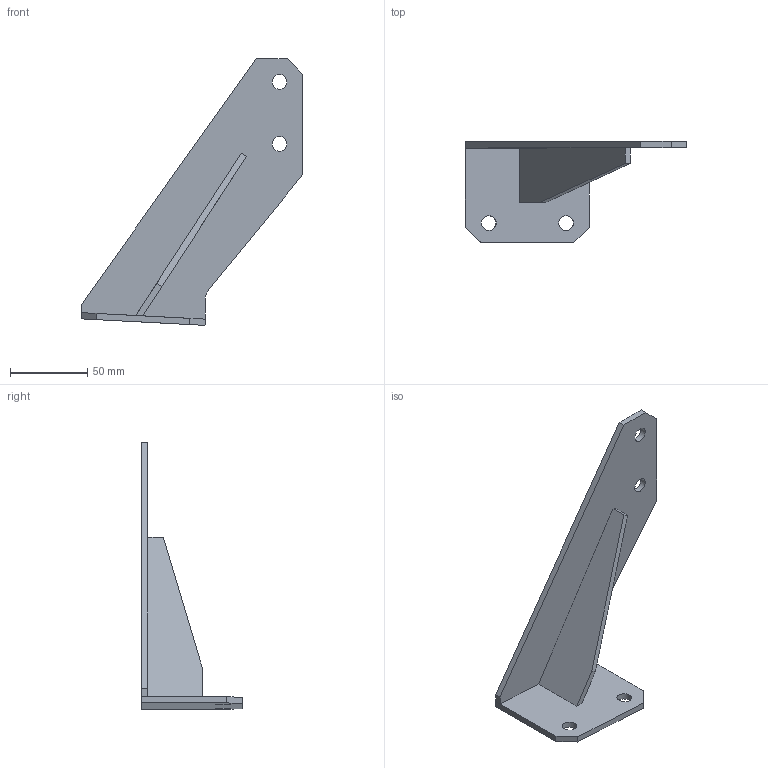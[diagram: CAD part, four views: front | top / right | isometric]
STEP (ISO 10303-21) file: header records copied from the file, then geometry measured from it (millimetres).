
FILE_DESCRIPTION(/* description */ ('SUPPORT AVANT DROIT','CAx-IF Rec.Pracs.---Representation and Presentation of Product Manufacturing Information (PMI)---4.0---2014-10-13'),/* implementation_level */ '2;1');
FILE_NAME(/* name */ 'vv110301-B.stp',/* time_stamp */ '2025-09-26T17:23:27+02:00',/* author */ ('CORDOLIANI J.'),/* organization */ (''),/* preprocessor_version */ 'ST-DEVELOPER v20',/* originating_system */ 'Autodesk Inventor 2025',/* authorisation */ '');
FILE_SCHEMA (('AP242_MANAGED_MODEL_BASED_3D_ENGINEERING_MIM_LF { 1 0 10303 442 1 1 4 }'));
Length unit declared in the file: millimetre
Products named in the file (1): VICTOR.V.11.03.01
Bounding box: 143.01 x 65 x 172.18 mm (x, y, z)
Volume: 77290.3 mm3; surface area: 43418.6 mm2
Topology: 3 solids, 3 shells, 30 faces, 72 edges, 48 vertices
Faces by surface type: plane 25, cylinder 5
Full cylindrical faces by diameter (mm): 9.5 x4
Entity records: 1145 total; most frequent: CARTESIAN_POINT 225, DIRECTION 152, ORIENTED_EDGE 144, EDGE_CURVE 72, LINE 62, VECTOR 62, STYLED_ITEM 50, VERTEX_POINT 48
